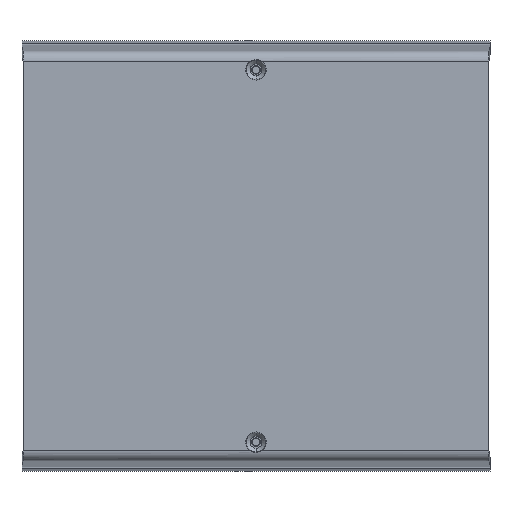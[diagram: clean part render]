
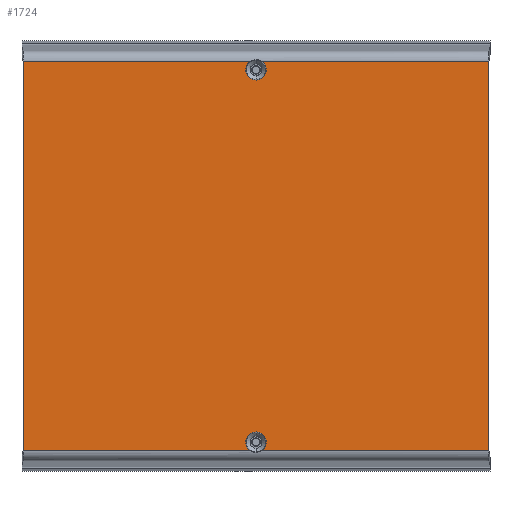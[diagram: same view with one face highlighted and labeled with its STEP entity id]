
A CAD part, front view. The second image highlights one B-rep face of the part: STEP entity #1724.
In plain terms, the highlighted planar face has unit normal (0, -1, 0).
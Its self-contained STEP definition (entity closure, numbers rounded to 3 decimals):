
#79 = CARTESIAN_POINT ( 'NONE',  ( 0., -41., -54.5 ) ) ;
#112 = ORIENTED_EDGE ( 'NONE', *, *, #989, .F. ) ;
#160 = VERTEX_POINT ( 'NONE', #6583 ) ;
#486 = ORIENTED_EDGE ( 'NONE', *, *, #4481, .F. ) ;
#506 = CARTESIAN_POINT ( 'NONE',  ( -1.652, -41., 57.004 ) ) ;
#709 = DIRECTION ( 'NONE',  ( 0., 0., -1. ) ) ;
#740 = VERTEX_POINT ( 'NONE', #506 ) ;
#787 = EDGE_CURVE ( 'NONE', #6259, #1982, #6588, .T. ) ;
#989 = EDGE_CURVE ( 'NONE', #1192, #3323, #3387, .T. ) ;
#1192 = VERTEX_POINT ( 'NONE', #6794 ) ;
#1207 = CARTESIAN_POINT ( 'NONE',  ( -68.142, -41., 57.004 ) ) ;
#1223 = DIRECTION ( 'NONE',  ( 0., 0., 1. ) ) ;
#1243 = CARTESIAN_POINT ( 'NONE',  ( 68.142, -41., 57.004 ) ) ;
#1404 = DIRECTION ( 'NONE',  ( 0., 0., -1. ) ) ;
#1528 = VERTEX_POINT ( 'NONE', #2533 ) ;
#1598 = AXIS2_PLACEMENT_3D ( 'NONE', #1796, #6165, #2431 ) ;
#1724 = ADVANCED_FACE ( 'NONE', ( #4754 ), #2208, .F. ) ;
#1796 = CARTESIAN_POINT ( 'NONE',  ( 0., -41., 54.5 ) ) ;
#1854 = EDGE_LOOP ( 'NONE', ( #3229, #112, #8046, #7441, #486, #2505, #6177, #4330, #6010, #2082 ) ) ;
#1982 = VERTEX_POINT ( 'NONE', #8087 ) ;
#1995 = EDGE_CURVE ( 'NONE', #740, #3506, #6475, .T. ) ;
#2035 = CARTESIAN_POINT ( 'NONE',  ( 0., -41., -54.5 ) ) ;
#2082 = ORIENTED_EDGE ( 'NONE', *, *, #4426, .F. ) ;
#2208 = PLANE ( 'NONE',  #2908 ) ;
#2243 = LINE ( 'NONE', #3779, #3737 ) ;
#2255 = LINE ( 'NONE', #7852, #7038 ) ;
#2330 = CIRCLE ( 'NONE', #1598, 3. ) ;
#2344 = CIRCLE ( 'NONE', #7206, 3. ) ;
#2431 = DIRECTION ( 'NONE',  ( 0., 0., -1. ) ) ;
#2500 = DIRECTION ( 'NONE',  ( -1., 0., 0. ) ) ;
#2505 = ORIENTED_EDGE ( 'NONE', *, *, #787, .T. ) ;
#2533 = CARTESIAN_POINT ( 'NONE',  ( -68.142, -41., -57.004 ) ) ;
#2597 = VECTOR ( 'NONE', #1223, 1000. ) ;
#2737 = DIRECTION ( 'NONE',  ( 0., -1., 0. ) ) ;
#2836 = DIRECTION ( 'NONE',  ( 0., 1., 0. ) ) ;
#2908 = AXIS2_PLACEMENT_3D ( 'NONE', #5941, #2836, #7202 ) ;
#2918 = VERTEX_POINT ( 'NONE', #5204 ) ;
#3066 = LINE ( 'NONE', #4341, #2597 ) ;
#3207 = EDGE_CURVE ( 'NONE', #160, #5289, #7945, .T. ) ;
#3229 = ORIENTED_EDGE ( 'NONE', *, *, #6632, .T. ) ;
#3323 = VERTEX_POINT ( 'NONE', #4337 ) ;
#3337 = DIRECTION ( 'NONE',  ( -1., 0., 0. ) ) ;
#3387 = CIRCLE ( 'NONE', #6442, 3. ) ;
#3506 = VERTEX_POINT ( 'NONE', #3943 ) ;
#3737 = VECTOR ( 'NONE', #4397, 1000. ) ;
#3779 = CARTESIAN_POINT ( 'NONE',  ( 68.142, -41., -62. ) ) ;
#3943 = CARTESIAN_POINT ( 'NONE',  ( -68.142, -41., 57.004 ) ) ;
#3974 = AXIS2_PLACEMENT_3D ( 'NONE', #79, #4469, #709 ) ;
#4124 = DIRECTION ( 'NONE',  ( 1., 0., 0. ) ) ;
#4330 = ORIENTED_EDGE ( 'NONE', *, *, #4683, .F. ) ;
#4337 = CARTESIAN_POINT ( 'NONE',  ( -1.652, -41., -57.004 ) ) ;
#4341 = CARTESIAN_POINT ( 'NONE',  ( -68.142, -41., -62. ) ) ;
#4397 = DIRECTION ( 'NONE',  ( 0., 0., -1. ) ) ;
#4426 = EDGE_CURVE ( 'NONE', #1528, #3506, #3066, .T. ) ;
#4469 = DIRECTION ( 'NONE',  ( 0., -1., 0. ) ) ;
#4481 = EDGE_CURVE ( 'NONE', #6259, #5289, #2243, .T. ) ;
#4570 = CARTESIAN_POINT ( 'NONE',  ( -68.142, -41., 57.004 ) ) ;
#4683 = EDGE_CURVE ( 'NONE', #740, #2918, #2344, .T. ) ;
#4754 = FACE_OUTER_BOUND ( 'NONE', #1854, .T. ) ;
#4764 = VECTOR ( 'NONE', #3337, 1000. ) ;
#4859 = VECTOR ( 'NONE', #2500, 1000. ) ;
#5188 = EDGE_CURVE ( 'NONE', #160, #1192, #7313, .T. ) ;
#5204 = CARTESIAN_POINT ( 'NONE',  ( 0., -41., 51.5 ) ) ;
#5289 = VERTEX_POINT ( 'NONE', #7086 ) ;
#5485 = CARTESIAN_POINT ( 'NONE',  ( 68.142, -41., -57.004 ) ) ;
#5669 = EDGE_CURVE ( 'NONE', #2918, #1982, #2330, .T. ) ;
#5769 = DIRECTION ( 'NONE',  ( 0., -1., 0. ) ) ;
#5941 = CARTESIAN_POINT ( 'NONE',  ( -68.5, -41., -62. ) ) ;
#6010 = ORIENTED_EDGE ( 'NONE', *, *, #1995, .T. ) ;
#6093 = VECTOR ( 'NONE', #6094, 1000. ) ;
#6094 = DIRECTION ( 'NONE',  ( 1., 0., 0. ) ) ;
#6165 = DIRECTION ( 'NONE',  ( 0., -1., 0. ) ) ;
#6177 = ORIENTED_EDGE ( 'NONE', *, *, #5669, .F. ) ;
#6259 = VERTEX_POINT ( 'NONE', #1243 ) ;
#6442 = AXIS2_PLACEMENT_3D ( 'NONE', #2035, #5769, #1404 ) ;
#6461 = CARTESIAN_POINT ( 'NONE',  ( 0., -41., 54.5 ) ) ;
#6475 = LINE ( 'NONE', #1207, #4859 ) ;
#6583 = CARTESIAN_POINT ( 'NONE',  ( 1.652, -41., -57.004 ) ) ;
#6588 = LINE ( 'NONE', #4570, #4764 ) ;
#6632 = EDGE_CURVE ( 'NONE', #1528, #3323, #2255, .T. ) ;
#6794 = CARTESIAN_POINT ( 'NONE',  ( 0., -41., -51.5 ) ) ;
#7038 = VECTOR ( 'NONE', #4124, 1000. ) ;
#7086 = CARTESIAN_POINT ( 'NONE',  ( 68.142, -41., -57.004 ) ) ;
#7098 = DIRECTION ( 'NONE',  ( 0., 0., -1. ) ) ;
#7202 = DIRECTION ( 'NONE',  ( 0., 0., 1. ) ) ;
#7206 = AXIS2_PLACEMENT_3D ( 'NONE', #6461, #2737, #7098 ) ;
#7313 = CIRCLE ( 'NONE', #3974, 3. ) ;
#7441 = ORIENTED_EDGE ( 'NONE', *, *, #3207, .T. ) ;
#7852 = CARTESIAN_POINT ( 'NONE',  ( 68.142, -41., -57.004 ) ) ;
#7945 = LINE ( 'NONE', #5485, #6093 ) ;
#8046 = ORIENTED_EDGE ( 'NONE', *, *, #5188, .F. ) ;
#8087 = CARTESIAN_POINT ( 'NONE',  ( 1.652, -41., 57.004 ) ) ;
